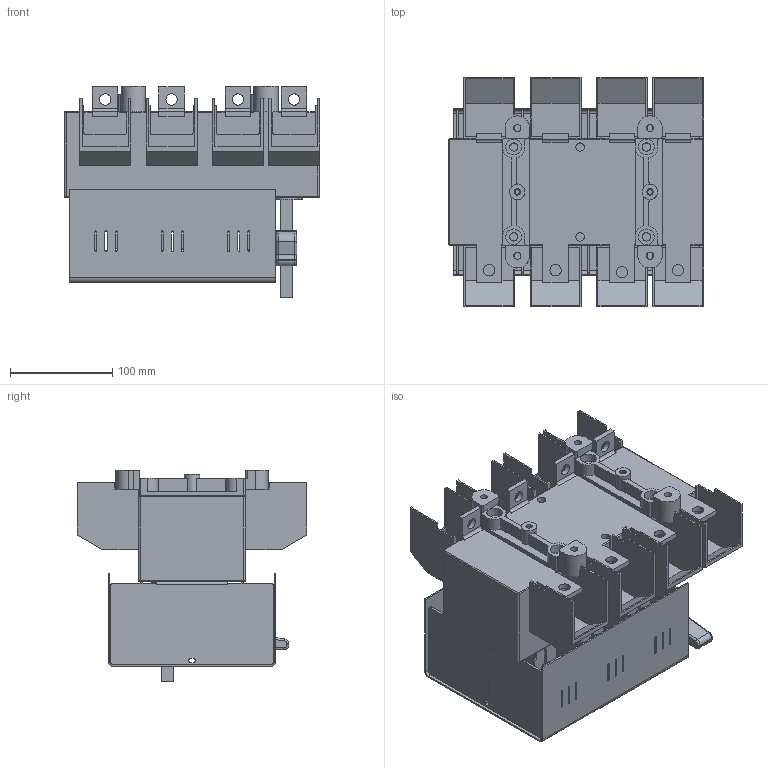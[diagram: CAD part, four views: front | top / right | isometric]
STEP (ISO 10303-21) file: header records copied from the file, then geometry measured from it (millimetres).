
FILE_DESCRIPTION(/* description */ (''),/* implementation_level */ '2;1');
FILE_NAME(/* name */ 'RAB 2 P3 NB z oslona zaciskow.stp',/* time_stamp */ '2021-08-19T13:50:31+02:00',/* author */ (''),/* organization */ (''),/* preprocessor_version */ 'ST-DEVELOPER v18.1',/* originating_system */ 'SIEMENS PLM Software NX 1965',/* authorisation */ '');
FILE_SCHEMA (('AUTOMOTIVE_DESIGN { 1 0 10303 214 3 1 1 1 }'));
Length unit declared in the file: millimetre
Products named in the file (1): RAB 2 P3 NB z oslona zaciskow
Bounding box: 250 x 225 x 207.3 mm (x, y, z)
Volume: 2687708.7 mm3; surface area: 613051.4 mm2
Topology: 2 solids, 2 shells, 1271 faces, 3605 edges, 2347 vertices
Faces by surface type: plane 866, cylinder 383, bspline 8, torus 8, sphere 6
Full cylindrical faces by diameter (mm): 4.8 x2, 6.2 x2, 7 x4, 8.2 x6, 11 x8, 14 x4, 15 x2, 15.5 x4
Entity records: 41194 total; most frequent: CARTESIAN_POINT 7352, ORIENTED_EDGE 7118, DIRECTION 6909, EDGE_CURVE 3559, LINE 2721, VECTOR 2721, VERTEX_POINT 2336, AXIS2_PLACEMENT_3D 2094
